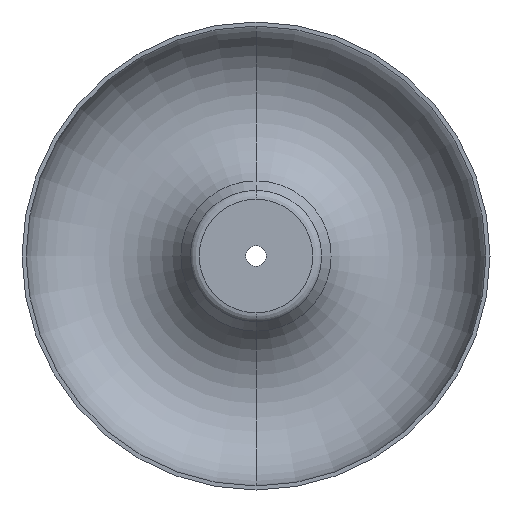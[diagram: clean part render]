
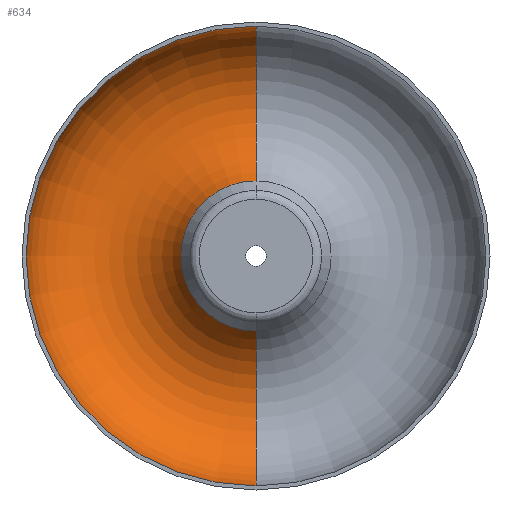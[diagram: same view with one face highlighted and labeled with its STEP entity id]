
A CAD part, front view. The second image highlights one B-rep face of the part: STEP entity #634.
In plain terms, the highlighted toroidal (fillet/blend) face has major radius 144 mm and minor radius 82 mm.
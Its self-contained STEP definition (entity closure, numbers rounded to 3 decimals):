
#17 = DIRECTION ( 'NONE',  ( -1., 0., 0. ) ) ;
#41 = AXIS2_PLACEMENT_3D ( 'NONE', #78, #17, #501 ) ;
#49 = DIRECTION ( 'NONE',  ( 0., -1., 0. ) ) ;
#55 = CARTESIAN_POINT ( 'NONE',  ( 0., 42., 0. ) ) ;
#57 = EDGE_CURVE ( 'NONE', #330, #208, #298, .T. ) ;
#78 = CARTESIAN_POINT ( 'NONE',  ( 0., 42., -144. ) ) ;
#90 = CARTESIAN_POINT ( 'NONE',  ( 0., 42., 226. ) ) ;
#101 = CARTESIAN_POINT ( 'NONE',  ( 0., 42., -226. ) ) ;
#112 = CIRCLE ( 'NONE', #552, 226. ) ;
#117 = CIRCLE ( 'NONE', #361, 82. ) ;
#121 = ORIENTED_EDGE ( 'NONE', *, *, #373, .T. ) ;
#126 = EDGE_LOOP ( 'NONE', ( #337, #121, #504, #141 ) ) ;
#141 = ORIENTED_EDGE ( 'NONE', *, *, #764, .F. ) ;
#142 = CARTESIAN_POINT ( 'NONE',  ( 0., 42., 144. ) ) ;
#174 = CARTESIAN_POINT ( 'NONE',  ( 0., 42., 0. ) ) ;
#185 = FACE_OUTER_BOUND ( 'NONE', #126, .T. ) ;
#189 = CARTESIAN_POINT ( 'NONE',  ( 0., 84.35, 73.783 ) ) ;
#192 = DIRECTION ( 'NONE',  ( 0., 0., -1. ) ) ;
#208 = VERTEX_POINT ( 'NONE', #872 ) ;
#298 = CIRCLE ( 'NONE', #819, 73.783 ) ;
#302 = DIRECTION ( 'NONE',  ( 0., -1., 0. ) ) ;
#303 = EDGE_CURVE ( 'NONE', #742, #896, #112, .T. ) ;
#325 = CARTESIAN_POINT ( 'NONE',  ( 0., 84.35, 0. ) ) ;
#330 = VERTEX_POINT ( 'NONE', #189 ) ;
#337 = ORIENTED_EDGE ( 'NONE', *, *, #57, .F. ) ;
#353 = DIRECTION ( 'NONE',  ( 0., 0., -1. ) ) ;
#361 = AXIS2_PLACEMENT_3D ( 'NONE', #142, #813, #745 ) ;
#373 = EDGE_CURVE ( 'NONE', #330, #742, #117, .T. ) ;
#440 = CIRCLE ( 'NONE', #41, 82. ) ;
#467 = TOROIDAL_SURFACE ( 'NONE', #519, 144., 82. ) ;
#501 = DIRECTION ( 'NONE',  ( 0., 0., 1. ) ) ;
#504 = ORIENTED_EDGE ( 'NONE', *, *, #303, .T. ) ;
#519 = AXIS2_PLACEMENT_3D ( 'NONE', #55, #49, #192 ) ;
#552 = AXIS2_PLACEMENT_3D ( 'NONE', #174, #874, #816 ) ;
#634 = ADVANCED_FACE ( 'NONE', ( #185 ), #467, .F. ) ;
#742 = VERTEX_POINT ( 'NONE', #90 ) ;
#745 = DIRECTION ( 'NONE',  ( 0., 0., -1. ) ) ;
#764 = EDGE_CURVE ( 'NONE', #208, #896, #440, .T. ) ;
#813 = DIRECTION ( 'NONE',  ( 1., 0., 0. ) ) ;
#816 = DIRECTION ( 'NONE',  ( 0., 0., -1. ) ) ;
#819 = AXIS2_PLACEMENT_3D ( 'NONE', #325, #302, #353 ) ;
#872 = CARTESIAN_POINT ( 'NONE',  ( 0., 84.35, -73.783 ) ) ;
#874 = DIRECTION ( 'NONE',  ( 0., -1., 0. ) ) ;
#896 = VERTEX_POINT ( 'NONE', #101 ) ;
